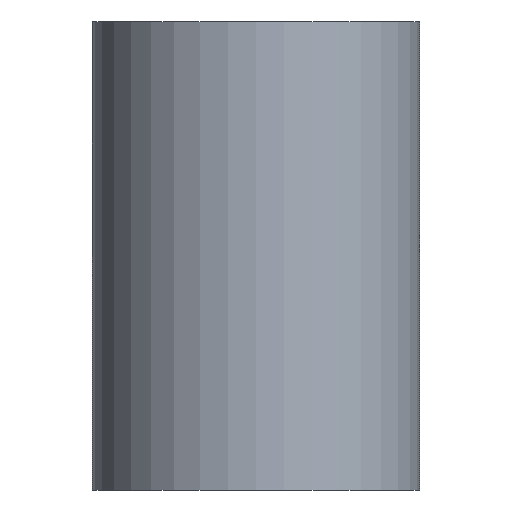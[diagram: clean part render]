
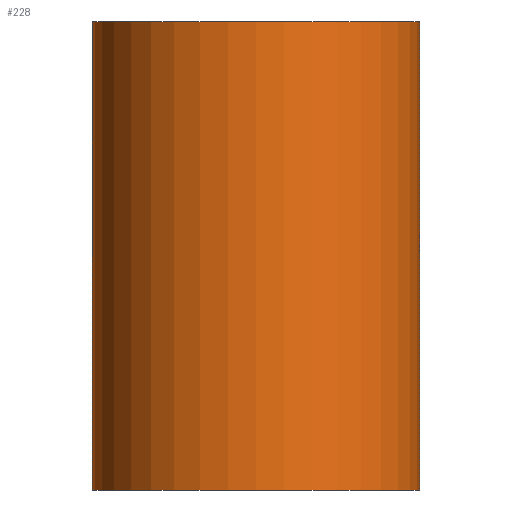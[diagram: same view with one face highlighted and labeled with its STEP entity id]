
A CAD part, left-side view. The second image highlights one B-rep face of the part: STEP entity #228.
In plain terms, the highlighted cylindrical face has radius 5 mm (diameter 10 mm), a partial arc.
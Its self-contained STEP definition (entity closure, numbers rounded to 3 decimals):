
#44 = PLANE('',#45);
#45 = AXIS2_PLACEMENT_3D('',#46,#47,#48);
#46 = CARTESIAN_POINT('',(-62.925,5.,0.));
#47 = DIRECTION('',(0.,1.,0.));
#48 = DIRECTION('',(1.,0.,0.));
#73 = PLANE('',#74);
#74 = AXIS2_PLACEMENT_3D('',#75,#76,#77);
#75 = CARTESIAN_POINT('',(0.,0.,14.3));
#76 = DIRECTION('',(0.,0.,1.));
#77 = DIRECTION('',(1.,0.,-0.));
#105 = PLANE('',#106);
#106 = AXIS2_PLACEMENT_3D('',#107,#108,#109);
#107 = CARTESIAN_POINT('',(0.,-5.,0.));
#108 = DIRECTION('',(0.,1.,0.));
#109 = DIRECTION('',(1.,0.,0.));
#132 = PLANE('',#133);
#133 = AXIS2_PLACEMENT_3D('',#134,#135,#136);
#134 = CARTESIAN_POINT('',(0.,0.,0.));
#135 = DIRECTION('',(0.,0.,1.));
#136 = DIRECTION('',(1.,0.,-0.));
#153 = VERTEX_POINT('',#154);
#154 = CARTESIAN_POINT('',(-62.925,-5.,14.3));
#175 = EDGE_CURVE('',#153,#176,#178,.T.);
#176 = VERTEX_POINT('',#177);
#177 = CARTESIAN_POINT('',(-62.925,5.,14.3));
#178 = SURFACE_CURVE('',#179,(#184,#195),.PCURVE_S1.);
#179 = CIRCLE('',#180,5.);
#180 = AXIS2_PLACEMENT_3D('',#181,#182,#183);
#181 = CARTESIAN_POINT('',(-62.925,0.,14.3));
#182 = DIRECTION('',(0.,0.,-1.));
#183 = DIRECTION('',(1.,0.,0.));
#184 = PCURVE('',#73,#185);
#185 = DEFINITIONAL_REPRESENTATION('',(#186),#194);
#186 = ( BOUNDED_CURVE() B_SPLINE_CURVE(2,(#187,#188,#189,#190,#191,#192
,#193),.UNSPECIFIED.,.T.,.F.) B_SPLINE_CURVE_WITH_KNOTS((1,2,2,2,2,1),(
    -2.094,0.,2.094,4.189,6.283,
8.378),.UNSPECIFIED.) CURVE() GEOMETRIC_REPRESENTATION_ITEM() 
RATIONAL_B_SPLINE_CURVE((1.,0.5,1.,0.5,1.,0.5,1.)) REPRESENTATION_ITEM(
  '') );
#187 = CARTESIAN_POINT('',(-57.925,0.));
#188 = CARTESIAN_POINT('',(-57.925,-8.66));
#189 = CARTESIAN_POINT('',(-65.425,-4.33));
#190 = CARTESIAN_POINT('',(-72.925,0.));
#191 = CARTESIAN_POINT('',(-65.425,4.33));
#192 = CARTESIAN_POINT('',(-57.925,8.66));
#193 = CARTESIAN_POINT('',(-57.925,0.));
#194 = ( GEOMETRIC_REPRESENTATION_CONTEXT(2) 
PARAMETRIC_REPRESENTATION_CONTEXT() REPRESENTATION_CONTEXT('2D SPACE',''
  ) );
#195 = PCURVE('',#196,#201);
#196 = CYLINDRICAL_SURFACE('',#197,5.);
#197 = AXIS2_PLACEMENT_3D('',#198,#199,#200);
#198 = CARTESIAN_POINT('',(-62.925,0.,0.));
#199 = DIRECTION('',(0.,0.,-1.));
#200 = DIRECTION('',(1.,0.,0.));
#201 = DEFINITIONAL_REPRESENTATION('',(#202),#206);
#202 = LINE('',#203,#204);
#203 = CARTESIAN_POINT('',(0.,-14.3));
#204 = VECTOR('',#205,1.);
#205 = DIRECTION('',(1.,0.));
#206 = ( GEOMETRIC_REPRESENTATION_CONTEXT(2) 
PARAMETRIC_REPRESENTATION_CONTEXT() REPRESENTATION_CONTEXT('2D SPACE',''
  ) );
#228 = ADVANCED_FACE('',(#229),#196,.T.);
#229 = FACE_BOUND('',#230,.T.);
#230 = EDGE_LOOP('',(#231,#254,#255,#278));
#231 = ORIENTED_EDGE('',*,*,#232,.T.);
#232 = EDGE_CURVE('',#233,#153,#235,.T.);
#233 = VERTEX_POINT('',#234);
#234 = CARTESIAN_POINT('',(-62.925,-5.,0.));
#235 = SURFACE_CURVE('',#236,(#240,#247),.PCURVE_S1.);
#236 = LINE('',#237,#238);
#237 = CARTESIAN_POINT('',(-62.925,-5.,0.));
#238 = VECTOR('',#239,1.);
#239 = DIRECTION('',(0.,0.,1.));
#240 = PCURVE('',#196,#241);
#241 = DEFINITIONAL_REPRESENTATION('',(#242),#246);
#242 = LINE('',#243,#244);
#243 = CARTESIAN_POINT('',(1.571,0.));
#244 = VECTOR('',#245,1.);
#245 = DIRECTION('',(0.,-1.));
#246 = ( GEOMETRIC_REPRESENTATION_CONTEXT(2) 
PARAMETRIC_REPRESENTATION_CONTEXT() REPRESENTATION_CONTEXT('2D SPACE',''
  ) );
#247 = PCURVE('',#105,#248);
#248 = DEFINITIONAL_REPRESENTATION('',(#249),#253);
#249 = LINE('',#250,#251);
#250 = CARTESIAN_POINT('',(-62.925,0.));
#251 = VECTOR('',#252,1.);
#252 = DIRECTION('',(0.,-1.));
#253 = ( GEOMETRIC_REPRESENTATION_CONTEXT(2) 
PARAMETRIC_REPRESENTATION_CONTEXT() REPRESENTATION_CONTEXT('2D SPACE',''
  ) );
#254 = ORIENTED_EDGE('',*,*,#175,.T.);
#255 = ORIENTED_EDGE('',*,*,#256,.F.);
#256 = EDGE_CURVE('',#257,#176,#259,.T.);
#257 = VERTEX_POINT('',#258);
#258 = CARTESIAN_POINT('',(-62.925,5.,0.));
#259 = SURFACE_CURVE('',#260,(#264,#271),.PCURVE_S1.);
#260 = LINE('',#261,#262);
#261 = CARTESIAN_POINT('',(-62.925,5.,0.));
#262 = VECTOR('',#263,1.);
#263 = DIRECTION('',(0.,0.,1.));
#264 = PCURVE('',#196,#265);
#265 = DEFINITIONAL_REPRESENTATION('',(#266),#270);
#266 = LINE('',#267,#268);
#267 = CARTESIAN_POINT('',(4.712,0.));
#268 = VECTOR('',#269,1.);
#269 = DIRECTION('',(0.,-1.));
#270 = ( GEOMETRIC_REPRESENTATION_CONTEXT(2) 
PARAMETRIC_REPRESENTATION_CONTEXT() REPRESENTATION_CONTEXT('2D SPACE',''
  ) );
#271 = PCURVE('',#44,#272);
#272 = DEFINITIONAL_REPRESENTATION('',(#273),#277);
#273 = LINE('',#274,#275);
#274 = CARTESIAN_POINT('',(0.,0.));
#275 = VECTOR('',#276,1.);
#276 = DIRECTION('',(0.,-1.));
#277 = ( GEOMETRIC_REPRESENTATION_CONTEXT(2) 
PARAMETRIC_REPRESENTATION_CONTEXT() REPRESENTATION_CONTEXT('2D SPACE',''
  ) );
#278 = ORIENTED_EDGE('',*,*,#279,.F.);
#279 = EDGE_CURVE('',#233,#257,#280,.T.);
#280 = SURFACE_CURVE('',#281,(#286,#293),.PCURVE_S1.);
#281 = CIRCLE('',#282,5.);
#282 = AXIS2_PLACEMENT_3D('',#283,#284,#285);
#283 = CARTESIAN_POINT('',(-62.925,0.,0.));
#284 = DIRECTION('',(0.,0.,-1.));
#285 = DIRECTION('',(1.,0.,0.));
#286 = PCURVE('',#196,#287);
#287 = DEFINITIONAL_REPRESENTATION('',(#288),#292);
#288 = LINE('',#289,#290);
#289 = CARTESIAN_POINT('',(0.,0.));
#290 = VECTOR('',#291,1.);
#291 = DIRECTION('',(1.,0.));
#292 = ( GEOMETRIC_REPRESENTATION_CONTEXT(2) 
PARAMETRIC_REPRESENTATION_CONTEXT() REPRESENTATION_CONTEXT('2D SPACE',''
  ) );
#293 = PCURVE('',#132,#294);
#294 = DEFINITIONAL_REPRESENTATION('',(#295),#303);
#295 = ( BOUNDED_CURVE() B_SPLINE_CURVE(2,(#296,#297,#298,#299,#300,#301
,#302),.UNSPECIFIED.,.T.,.F.) B_SPLINE_CURVE_WITH_KNOTS((1,2,2,2,2,1),(
    -2.094,0.,2.094,4.189,6.283,
8.378),.UNSPECIFIED.) CURVE() GEOMETRIC_REPRESENTATION_ITEM() 
RATIONAL_B_SPLINE_CURVE((1.,0.5,1.,0.5,1.,0.5,1.)) REPRESENTATION_ITEM(
  '') );
#296 = CARTESIAN_POINT('',(-57.925,0.));
#297 = CARTESIAN_POINT('',(-57.925,-8.66));
#298 = CARTESIAN_POINT('',(-65.425,-4.33));
#299 = CARTESIAN_POINT('',(-72.925,0.));
#300 = CARTESIAN_POINT('',(-65.425,4.33));
#301 = CARTESIAN_POINT('',(-57.925,8.66));
#302 = CARTESIAN_POINT('',(-57.925,0.));
#303 = ( GEOMETRIC_REPRESENTATION_CONTEXT(2) 
PARAMETRIC_REPRESENTATION_CONTEXT() REPRESENTATION_CONTEXT('2D SPACE',''
  ) );
